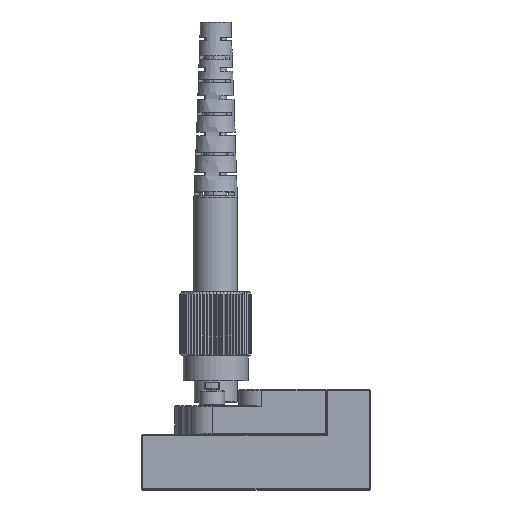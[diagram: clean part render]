
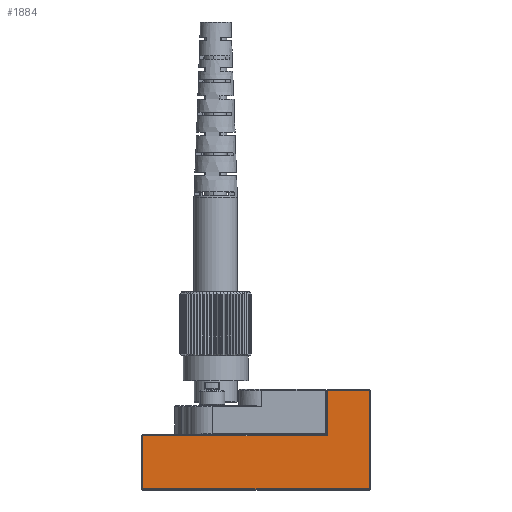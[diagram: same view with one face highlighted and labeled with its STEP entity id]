
A CAD part, top view. The second image highlights one B-rep face of the part: STEP entity #1884.
In plain terms, the highlighted planar face has unit normal (0, 0, 1).
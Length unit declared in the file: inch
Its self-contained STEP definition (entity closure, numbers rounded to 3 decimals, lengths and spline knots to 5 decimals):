
#2 = CARTESIAN_POINT ( 'NONE',  ( -0.62, 0.3, 0.4 ) ) ;
#659 = VERTEX_POINT ( 'NONE', #17927 ) ;
#1884 = ADVANCED_FACE ( 'NONE', ( #28397 ), #25625, .F. ) ;
#2360 = EDGE_CURVE ( 'NONE', #17527, #19054, #11839, .T. ) ;
#2548 = VERTEX_POINT ( 'NONE', #5727 ) ;
#3109 = CARTESIAN_POINT ( 'NONE',  ( 0.38984, 0.545, 0.4 ) ) ;
#3158 = LINE ( 'NONE', #8193, #28349 ) ;
#4587 = EDGE_CURVE ( 'NONE', #19054, #32284, #6930, .T. ) ;
#5727 = CARTESIAN_POINT ( 'NONE',  ( 0.38984, 0.295, 0.4 ) ) ;
#6547 = ORIENTED_EDGE ( 'NONE', *, *, #28448, .T. ) ;
#6930 = LINE ( 'NONE', #28216, #11105 ) ;
#7455 = CARTESIAN_POINT ( 'NONE',  ( -0.62, 0.005, 0.4 ) ) ;
#7794 = ORIENTED_EDGE ( 'NONE', *, *, #21490, .T. ) ;
#8193 = CARTESIAN_POINT ( 'NONE',  ( 0.38984, 0.3, 0.4 ) ) ;
#8366 = EDGE_CURVE ( 'NONE', #17679, #17527, #19681, .T. ) ;
#10610 = DIRECTION ( 'NONE',  ( 0., -1., 0. ) ) ;
#11105 = VECTOR ( 'NONE', #14932, 39.37008 ) ;
#11839 = LINE ( 'NONE', #27914, #16221 ) ;
#13664 = EDGE_CURVE ( 'NONE', #2548, #659, #31073, .T. ) ;
#14932 = DIRECTION ( 'NONE',  ( -1., 0., 0. ) ) ;
#16074 = AXIS2_PLACEMENT_3D ( 'NONE', #20016, #27868, #28226 ) ;
#16221 = VECTOR ( 'NONE', #19706, 39.37008 ) ;
#17234 = CARTESIAN_POINT ( 'NONE',  ( -0.625, 0.005, 0.4 ) ) ;
#17527 = VERTEX_POINT ( 'NONE', #24943 ) ;
#17679 = VERTEX_POINT ( 'NONE', #7455 ) ;
#17927 = CARTESIAN_POINT ( 'NONE',  ( -0.62, 0.295, 0.4 ) ) ;
#18560 = EDGE_LOOP ( 'NONE', ( #24051, #23625, #29713, #6547, #28481, #7794 ) ) ;
#18714 = VECTOR ( 'NONE', #23198, 39.37008 ) ;
#19054 = VERTEX_POINT ( 'NONE', #31283 ) ;
#19681 = LINE ( 'NONE', #17234, #22463 ) ;
#19706 = DIRECTION ( 'NONE',  ( 0., 1., 0. ) ) ;
#20016 = CARTESIAN_POINT ( 'NONE',  ( -0.625, 0.3, 0.4 ) ) ;
#20942 = LINE ( 'NONE', #2, #23422 ) ;
#21490 = EDGE_CURVE ( 'NONE', #659, #17679, #20942, .T. ) ;
#22463 = VECTOR ( 'NONE', #30704, 39.37008 ) ;
#23198 = DIRECTION ( 'NONE',  ( -1., 0., 0. ) ) ;
#23422 = VECTOR ( 'NONE', #10610, 39.37008 ) ;
#23625 = ORIENTED_EDGE ( 'NONE', *, *, #2360, .T. ) ;
#24051 = ORIENTED_EDGE ( 'NONE', *, *, #8366, .T. ) ;
#24943 = CARTESIAN_POINT ( 'NONE',  ( 0.62, 0.005, 0.4 ) ) ;
#25625 = PLANE ( 'NONE',  #16074 ) ;
#27868 = DIRECTION ( 'NONE',  ( 0., 0., -1. ) ) ;
#27914 = CARTESIAN_POINT ( 'NONE',  ( 0.62, 0.3, 0.4 ) ) ;
#28216 = CARTESIAN_POINT ( 'NONE',  ( 0.38484, 0.545, 0.4 ) ) ;
#28226 = DIRECTION ( 'NONE',  ( -1., 0., 0. ) ) ;
#28349 = VECTOR ( 'NONE', #29637, 39.37008 ) ;
#28397 = FACE_OUTER_BOUND ( 'NONE', #18560, .T. ) ;
#28430 = CARTESIAN_POINT ( 'NONE',  ( -0.625, 0.295, 0.4 ) ) ;
#28448 = EDGE_CURVE ( 'NONE', #32284, #2548, #3158, .T. ) ;
#28481 = ORIENTED_EDGE ( 'NONE', *, *, #13664, .T. ) ;
#29637 = DIRECTION ( 'NONE',  ( 0., -1., 0. ) ) ;
#29713 = ORIENTED_EDGE ( 'NONE', *, *, #4587, .T. ) ;
#30704 = DIRECTION ( 'NONE',  ( 1., 0., 0. ) ) ;
#31073 = LINE ( 'NONE', #28430, #18714 ) ;
#31283 = CARTESIAN_POINT ( 'NONE',  ( 0.62, 0.545, 0.4 ) ) ;
#32284 = VERTEX_POINT ( 'NONE', #3109 ) ;
